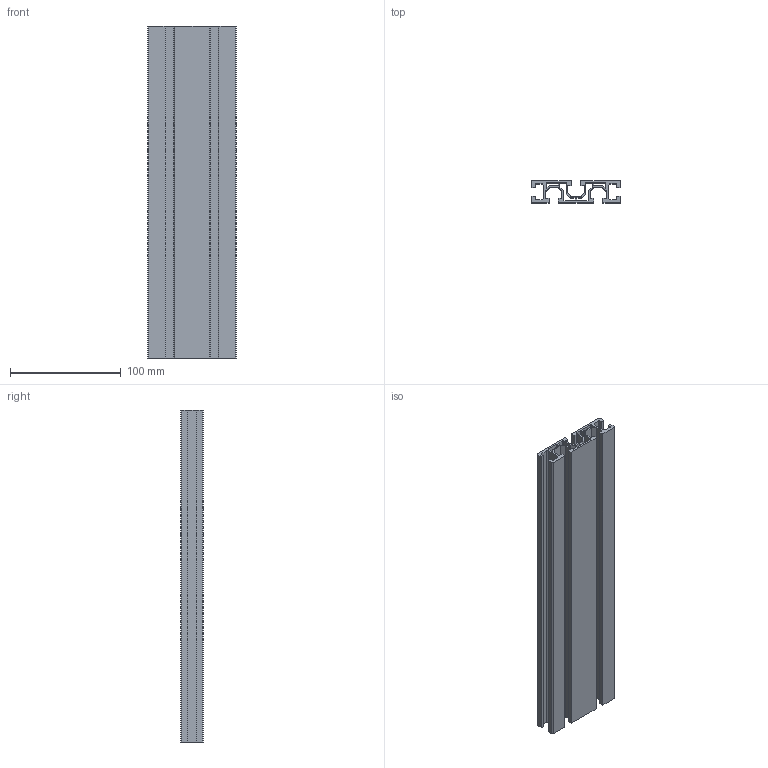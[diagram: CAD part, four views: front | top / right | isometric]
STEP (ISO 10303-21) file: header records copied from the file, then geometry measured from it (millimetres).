
FILE_DESCRIPTION (( 'STEP AP203' ), '1' );
FILE_NAME ('9-CG-2080C-8.STEP', '2015-07-07T02:48:24', ( '' ), ( '' ), 'SwSTEP 2.0', 'SolidWorks 2013', '' );
FILE_SCHEMA (( 'CONFIG_CONTROL_DESIGN' ));
Length unit declared in the file: millimetre
Products named in the file (1): 9-CG-2080C-8
Bounding box: 80 x 20 x 300 mm (x, y, z)
Volume: 170979.8 mm3; surface area: 163356 mm2
Topology: 1 solids, 1 shells, 166 faces, 492 edges, 328 vertices
Faces by surface type: plane 84, cylinder 82
Entity records: 5693 total; most frequent: DIRECTION 990, CARTESIAN_POINT 987, ORIENTED_EDGE 984, EDGE_CURVE 492, AXIS2_PLACEMENT_3D 331, VECTOR 328, VERTEX_POINT 328, LINE 328
